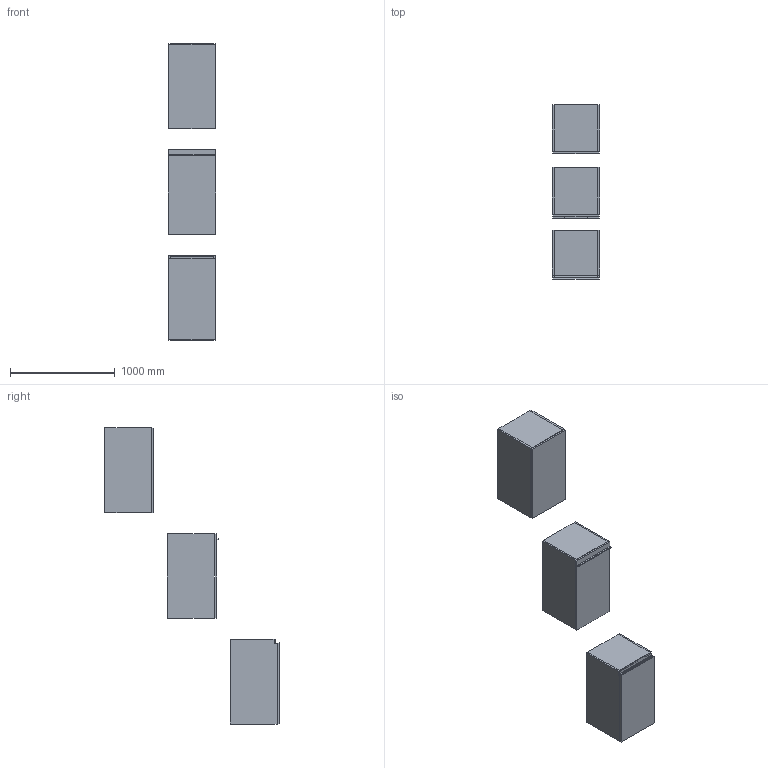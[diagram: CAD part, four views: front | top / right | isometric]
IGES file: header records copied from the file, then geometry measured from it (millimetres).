
Start section: Data from Parasolid IGES Translator 19.0.9, Copyright(c) 2006 Siemens PL M Software. All Rights Reserved.
Global section: file name: noorth-SI-H 81,2 D 47 W 45_8720.igs; native system: By Siemens PLM Incorporated; preprocessor: XPlus GENERIC/IGES 19.0.9; author: Noname; organization: Noname; date: 20200601.133837; units: metre
Bounding box: 450.01 x 1669.1 x 2832.01 mm (x, y, z)
Volume: 76133016.9 mm3; surface area: 11358535.7 mm2
Topology: 20 solids, 20 shells, 178 faces, 382 edges, 234 vertices
Faces by surface type: plane 134, extrusion 16, bspline 16, cylinder 12
